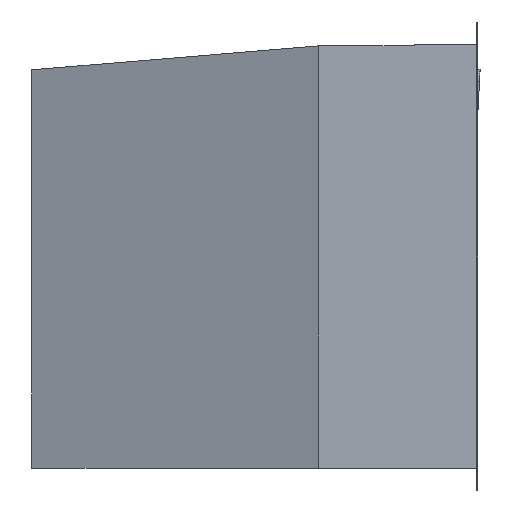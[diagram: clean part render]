
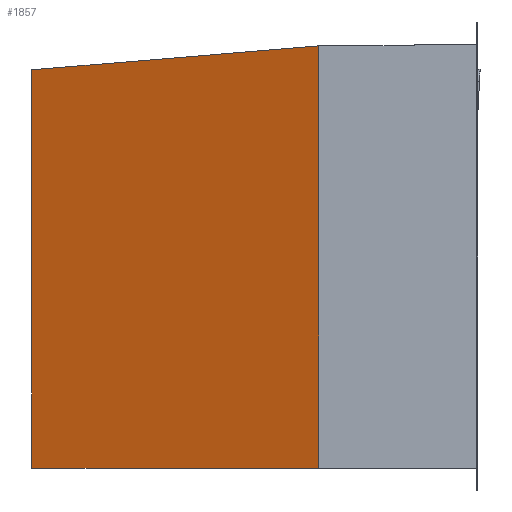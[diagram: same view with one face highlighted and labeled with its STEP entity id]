
A CAD part, left-side view. The second image highlights one B-rep face of the part: STEP entity #1857.
In plain terms, the highlighted planar face has unit normal (-0.94, 0.342, 0).
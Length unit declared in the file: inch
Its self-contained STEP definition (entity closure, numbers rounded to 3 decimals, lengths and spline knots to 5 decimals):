
#367=DIRECTION('',(-0.342,-0.94,0.));
#368=VECTOR('',#367,9.57772);
#369=CARTESIAN_POINT('',(-10.91141,14.,0.));
#370=LINE('',#369,#368);
#388=DIRECTION('',(0.,0.,1.));
#389=VECTOR('',#388,12.5);
#390=CARTESIAN_POINT('',(-10.91141,14.,0.));
#391=LINE('',#390,#389);
#409=DIRECTION('',(-0.341,-0.937,0.078));
#410=VECTOR('',#409,9.60704);
#411=CARTESIAN_POINT('',(-10.91141,14.,12.5));
#412=LINE('',#411,#410);
#458=DIRECTION('',(0.,0.,1.));
#459=VECTOR('',#458,13.25);
#460=CARTESIAN_POINT('',(-14.1875,5.,0.));
#461=LINE('',#460,#459);
#1605=CARTESIAN_POINT('',(-10.91141,14.,0.));
#1606=CARTESIAN_POINT('',(-14.1875,5.,0.));
#1607=VERTEX_POINT('',#1605);
#1608=VERTEX_POINT('',#1606);
#1609=CARTESIAN_POINT('',(-10.91141,14.,12.5));
#1610=VERTEX_POINT('',#1609);
#1611=CARTESIAN_POINT('',(-14.1875,5.,13.25));
#1612=VERTEX_POINT('',#1611);
#1846=CARTESIAN_POINT('',(-10.91141,14.,0.));
#1847=DIRECTION('',(-0.94,0.342,0.));
#1848=DIRECTION('',(-0.342,-0.94,0.));
#1849=AXIS2_PLACEMENT_3D('',#1846,#1847,#1848);
#1850=PLANE('',#1849);
#1851=ORIENTED_EDGE('',*,*,#1745,.F.);
#1852=ORIENTED_EDGE('',*,*,#1764,.T.);
#1853=ORIENTED_EDGE('',*,*,#1779,.T.);
#1854=ORIENTED_EDGE('',*,*,#1836,.F.);
#1855=EDGE_LOOP('',(#1851,#1852,#1853,#1854));
#1856=FACE_OUTER_BOUND('',#1855,.F.);
#1857=ADVANCED_FACE('',(#1856),#1850,.T.);
#1745=EDGE_CURVE('',#1607,#1608,#370,.T.);
#1764=EDGE_CURVE('',#1607,#1610,#391,.T.);
#1779=EDGE_CURVE('',#1610,#1612,#412,.T.);
#1836=EDGE_CURVE('',#1608,#1612,#461,.T.);
